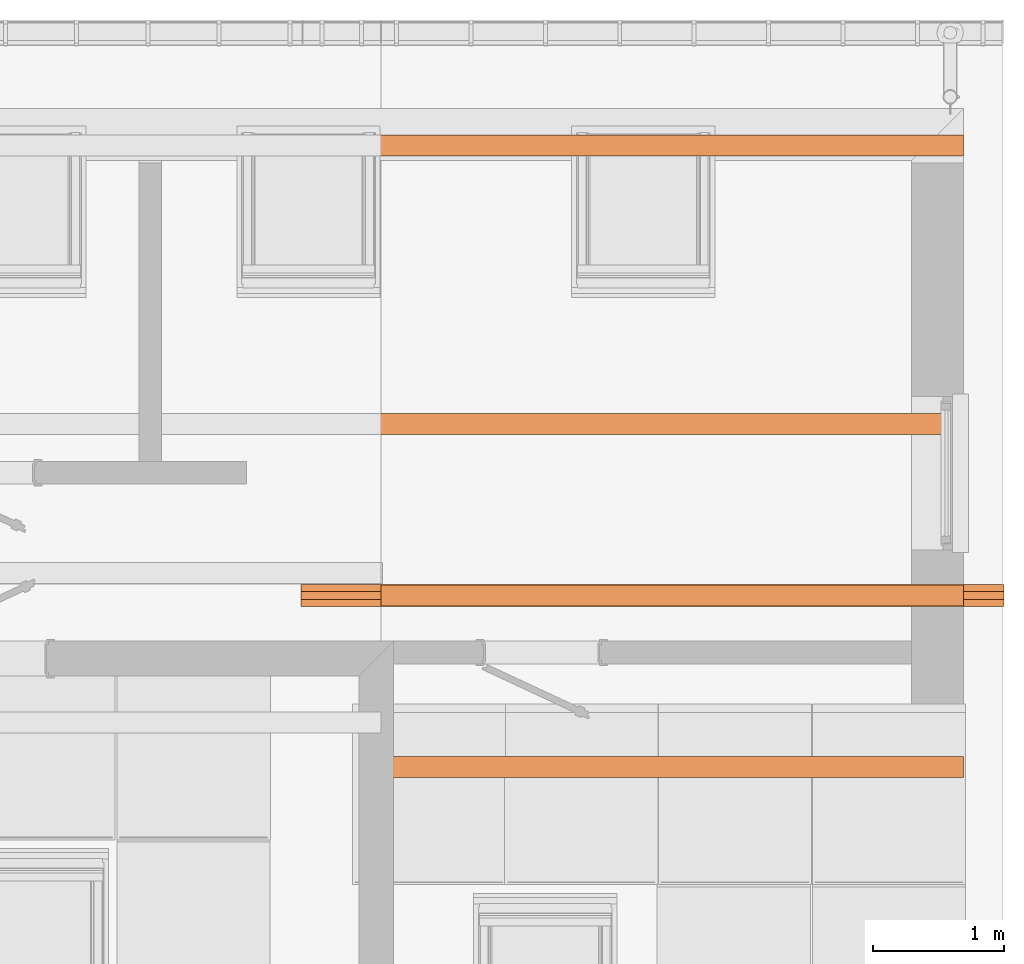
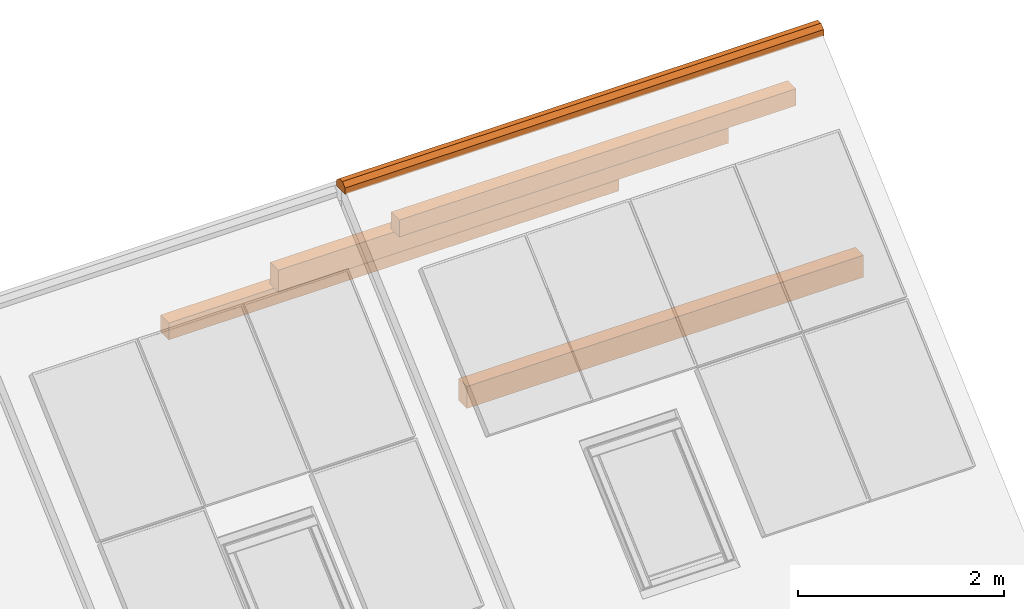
# One storey, part 21 of 43: 5 proxies.
"""IFC2X3 building model written with IfcOpenShell, lengths in millimetres."""

from ifc_helpers import new_model, si_unit, frame, origin_with_axes, place, context, project, spatial, faceted_brep, element, save


model = new_model("IFC2X3")

# Units and contexts
model_context = context("Model", 3, world=origin_with_axes())
ifc_project = project(units=[si_unit("LENGTHUNIT", "METRE", prefix="MILLI")], contexts=[model_context])

# Site, building, storey
site_placement = place(None, origin_with_axes())
site = spatial("IfcSite", under=ifc_project, at=site_placement, Name="Site", CompositionType="ELEMENT")
building_placement = place(site_placement, origin_with_axes())
building = spatial("IfcBuilding", under=site, at=building_placement, Name="?", CompositionType="ELEMENT")
storey_placement = place(building_placement, frame((0.0, 0.0, 5938.0), z_axis=(0.0, 0.0, 1.0), x_axis=(1.0, 0.0, 0.0)))
storey = spatial("IfcBuildingStorey", under=building, at=storey_placement, Name="Dachgeschoß", CompositionType="ELEMENT", Elevation=5938.0)

# Proxies
proxy_1_placement = place(None, origin_with_axes())
element("IfcBuildingElementProxy", 1, at=proxy_1_placement, inside=storey, Name="Dach01_RidgeStones#001", ObjectType="ridgestone", CompositionType="ELEMENT", context=model_context, shape_type="Brep", body=[
    faceted_brep([(18610.0, -3637.0, 10680.67578125), (18610.0, -3637.0, 10605.67578125), (13240.0, -3637.0, 10605.67578125), (13240.0, -3637.0, 10680.67578125), (18610.0, -3690.0, 10725.67578125), (18610.0, -3636.99999760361, 10680.6757783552), (13240.0, -3636.99999760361, 10680.6757783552), (13240.0, -3690.0, 10725.67578125), (18610.0, -3750.0, 10725.67578125), (18610.0, -3690.0, 10725.67578125), (13240.0, -3690.0, 10725.67578125), (13240.0, -3750.0, 10725.67578125), (18610.0, -3803.0, 10680.67578125), (18610.0, -3749.99999760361, 10725.6757841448), (13240.0, -3749.99999760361, 10725.6757841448), (13240.0, -3803.0, 10680.67578125), (18610.0, -3803.0, 10605.67578125), (18610.0, -3803.0, 10680.67578125), (13240.0, -3803.0, 10680.67578125), (13240.0, -3803.0, 10605.67578125), (18610.0, -3637.0, 10605.67578125), (18610.0, -3803.0, 10605.67578125), (13240.0, -3803.0, 10605.67578125), (13240.0, -3637.0, 10605.67578125), (18610.0, -3803.0, 10605.67578125), (18610.0, -3637.0, 10605.67578125), (18610.0, -3637.0, 10680.67578125), (18610.0, -3690.0, 10725.67578125), (18610.0, -3750.0, 10725.67578125), (18610.0, -3803.0, 10680.67578125), (13240.0, -3637.0, 10605.67578125), (13240.0, -3803.0, 10605.67578125), (13240.0, -3803.0, 10680.67578125), (13240.0, -3750.0, 10725.67578125), (13240.0, -3690.0, 10725.67578125), (13240.0, -3637.0, 10680.67578125)], [[[0, 1, 2, 3]], [[4, 5, 6, 7]], [[8, 9, 10, 11]], [[12, 13, 14, 15]], [[16, 17, 18, 19]], [[20, 21, 22, 23]], [[24, 25, 26, 27, 28, 29]], [[30, 31, 32, 33, 34, 35]]]),
])
proxy_2_placement = place(None, origin_with_axes())
element("IfcBuildingElementProxy", 2, at=proxy_2_placement, inside=storey, Name="Dach01_RidgePurlin#001", ObjectType="purlin", CompositionType="ELEMENT", context=model_context, shape_type="Brep", body=[
    faceted_brep([(18300.0, -3640.0, 9885.3896484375), (13850.0, -3640.0, 9885.3896484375), (13850.0, -3640.0, 10085.3896484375), (18300.0, -3640.0, 10085.3896484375), (18300.0, -3640.0, 9885.3896484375), (18300.0, -3640.0, 10085.3896484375), (18300.0, -3800.0, 10085.3896484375), (18300.0, -3800.0, 9885.3896484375), (13850.0, -3640.0, 9885.3896484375), (18300.0, -3640.0, 9885.3896484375), (18300.0, -3800.0, 9885.3896484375), (13850.0, -3800.0, 9885.3896484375), (13850.0, -3640.0, 10085.3896484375), (13850.0, -3640.0, 9885.3896484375), (13850.0, -3800.0, 9885.3896484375), (13850.0, -3800.0, 10085.3896484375), (18300.0, -3640.0, 10085.3896484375), (13850.0, -3640.0, 10085.3896484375), (13850.0, -3800.0, 10085.3896484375), (18300.0, -3800.0, 10085.3896484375), (18300.0, -3800.0, 9885.3896484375), (18300.0, -3800.0, 10085.3896484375), (13850.0, -3800.0, 10085.3896484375), (13850.0, -3800.0, 9885.3896484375)], [[[0, 1, 2, 3]], [[4, 5, 6, 7]], [[8, 9, 10, 11]], [[12, 13, 14, 15]], [[16, 17, 18, 19]], [[20, 21, 22, 23]]]),
])
proxy_3_placement = place(None, origin_with_axes())
element("IfcBuildingElementProxy", 3, at=proxy_3_placement, inside=storey, Name="Dach01_MiddlePurlin#001", ObjectType="purlin", CompositionType="ELEMENT", context=model_context, shape_type="Brep", body=[
    faceted_brep([(13250.0, -2489.03588867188, 8644.9921875), (18300.0, -2489.03588867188, 8644.9921875), (18300.0, -2489.03588867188, 8904.9921875), (13250.0, -2489.03588867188, 8904.9921875), (13250.0, -2489.03588867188, 8644.9921875), (13250.0, -2489.03588867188, 8904.9921875), (13250.0, -2329.03588867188, 8904.9921875), (13250.0, -2329.03588867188, 8644.9921875), (18300.0, -2489.03588867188, 8644.9921875), (13250.0, -2489.03588867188, 8644.9921875), (13250.0, -2329.03588867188, 8644.9921875), (18300.0, -2329.03588867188, 8644.9921875), (18300.0, -2489.03588867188, 8904.9921875), (18300.0, -2489.03588867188, 8644.9921875), (18300.0, -2329.03588867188, 8644.9921875), (18300.0, -2329.03588867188, 8904.9921875), (13250.0, -2489.03588867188, 8904.9921875), (18300.0, -2489.03588867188, 8904.9921875), (18300.0, -2329.03588867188, 8904.9921875), (13250.0, -2329.03588867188, 8904.9921875), (13250.0, -2329.03588867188, 8644.9921875), (13250.0, -2329.03588867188, 8904.9921875), (18300.0, -2329.03588867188, 8904.9921875), (18300.0, -2329.03588867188, 8644.9921875)], [[[0, 1, 2, 3]], [[4, 5, 6, 7]], [[8, 9, 10, 11]], [[12, 13, 14, 15]], [[16, 17, 18, 19]], [[20, 21, 22, 23]]]),
])
proxy_4_placement = place(None, origin_with_axes())
element("IfcBuildingElementProxy", 4, at=proxy_4_placement, inside=storey, Name="Dach01_MiddlePurlin#002", ObjectType="purlin", CompositionType="ELEMENT", context=model_context, shape_type="Brep", body=[
    faceted_brep([(18300.0, -4950.9638671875, 8644.9921875), (13850.0, -4950.9638671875, 8644.9921875), (13850.0, -4950.9638671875, 8904.9921875), (18300.0, -4950.9638671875, 8904.9921875), (18300.0, -4950.9638671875, 8644.9921875), (18300.0, -4950.9638671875, 8904.9921875), (18300.0, -5110.9638671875, 8904.9921875), (18300.0, -5110.9638671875, 8644.9921875), (13850.0, -4950.9638671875, 8644.9921875), (18300.0, -4950.9638671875, 8644.9921875), (18300.0, -5110.9638671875, 8644.9921875), (13850.0, -5110.9638671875, 8644.9921875), (13850.0, -4950.9638671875, 8904.9921875), (13850.0, -4950.9638671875, 8644.9921875), (13850.0, -5110.9638671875, 8644.9921875), (13850.0, -5110.9638671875, 8904.9921875), (18300.0, -4950.9638671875, 8904.9921875), (13850.0, -4950.9638671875, 8904.9921875), (13850.0, -5110.9638671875, 8904.9921875), (18300.0, -5110.9638671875, 8904.9921875), (18300.0, -5110.9638671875, 8644.9921875), (18300.0, -5110.9638671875, 8904.9921875), (13850.0, -5110.9638671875, 8904.9921875), (13850.0, -5110.9638671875, 8644.9921875)], [[[0, 1, 2, 3]], [[4, 5, 6, 7]], [[8, 9, 10, 11]], [[12, 13, 14, 15]], [[16, 17, 18, 19]], [[20, 21, 22, 23]]]),
])
proxy_5_placement = place(None, origin_with_axes())
element("IfcBuildingElementProxy", 5, at=proxy_5_placement, inside=storey, Name="Dach01_KneePurlin#001", ObjectType="purlin", CompositionType="ELEMENT", context=model_context, shape_type="Brep", body=[
    faceted_brep([(13250.0, -360.0, 6788.0), (18300.0, -360.0, 6788.0), (18300.0, -360.0, 6988.0), (13250.0, -360.0, 6988.0), (13250.0, -360.0, 6788.0), (13250.0, -360.0, 6988.0), (13250.0, -200.0, 6988.0), (13250.0, -200.0, 6788.0), (18300.0, -360.0, 6788.0), (13250.0, -360.0, 6788.0), (13250.0, -200.0, 6788.0), (18300.0, -200.0, 6788.0), (18300.0, -360.0, 6988.0), (18300.0, -360.0, 6788.0), (18300.0, -200.0, 6788.0), (18300.0, -200.0, 6988.0), (13250.0, -360.0, 6988.0), (18300.0, -360.0, 6988.0), (18300.0, -200.0, 6988.0), (13250.0, -200.0, 6988.0), (13250.0, -200.0, 6788.0), (13250.0, -200.0, 6988.0), (18300.0, -200.0, 6988.0), (18300.0, -200.0, 6788.0)], [[[0, 1, 2, 3]], [[4, 5, 6, 7]], [[8, 9, 10, 11]], [[12, 13, 14, 15]], [[16, 17, 18, 19]], [[20, 21, 22, 23]]]),
])

save(model, "model.ifc")
